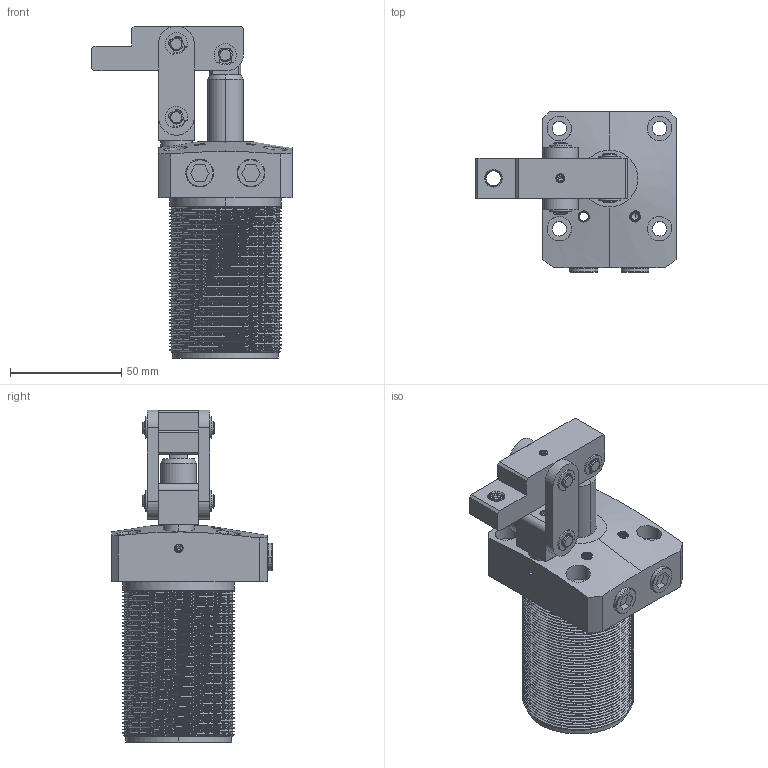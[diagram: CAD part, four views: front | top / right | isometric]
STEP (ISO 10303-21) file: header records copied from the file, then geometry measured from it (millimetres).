
FILE_DESCRIPTION (( 'STEP AP214' ), '1' );
FILE_NAME ('LHC01D-32L.STEP', '2019-04-19T12:10:27', ( '' ), ( '' ), 'SwSTEP 2.0', 'SolidWorks 2016', '' );
FILE_SCHEMA (( 'AUTOMOTIVE_DESIGN' ));
Length unit declared in the file: millimetre
Products named in the file (12): 5; 黑芛_4; 12; 11; 10; 8; 7; 6; 4; LHC01D32活塞杆; LHC01D32L掛极; LHC01D-32L
Assembly tree (28 placements, depth 2):
  LHC01D-32L
    LHC01D32L掛极
    LHC01D32活塞杆
    4
    6  x2
    7
    8  x2
    10  x6
    11  x6
    12  x5
    黑芛_4  x2
    5
Bounding box: 90 x 72 x 149 mm (x, y, z)
Volume: 239145.4 mm3; surface area: 72838.7 mm2
Topology: 28 solids, 30 shells, 1686 faces, 4363 edges, 2753 vertices
Faces by surface type: cone 738, cylinder 729, plane 209, bspline 6, torus 4
Entity records: 92362 total; most frequent: CARTESIAN_POINT 60505, ORIENTED_EDGE 7442, DIRECTION 5034, EDGE_CURVE 3721, VERTEX_POINT 2343, B_SPLINE_CURVE_WITH_KNOTS 1975, AXIS2_PLACEMENT_3D 1839, EDGE_LOOP 1492
